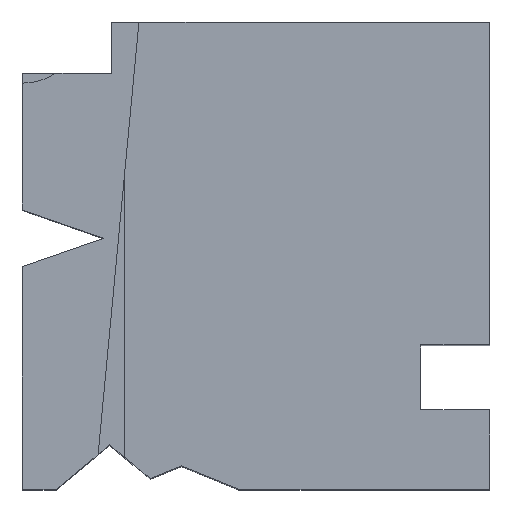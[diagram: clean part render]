
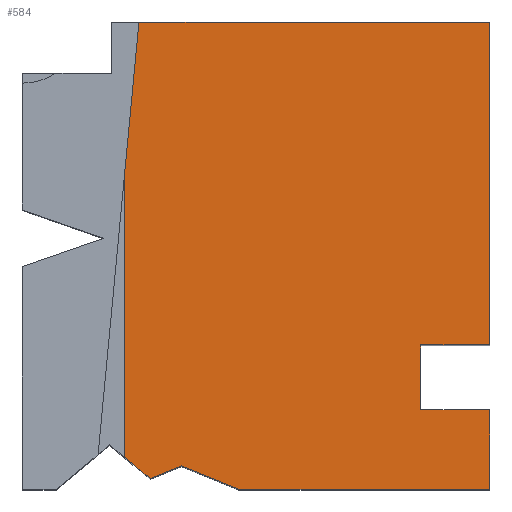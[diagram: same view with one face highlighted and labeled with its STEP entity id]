
A CAD part, top view. The second image highlights one B-rep face of the part: STEP entity #584.
In plain terms, the highlighted planar face has unit normal (0, 0, 1).
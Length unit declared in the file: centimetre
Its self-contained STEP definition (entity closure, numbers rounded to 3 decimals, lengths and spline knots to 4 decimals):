
#6 = CARTESIAN_POINT ( 'NONE',  ( 1000., 0., 1000. ) ) ;
#42 = VECTOR ( 'NONE', #788, 100. ) ;
#44 = EDGE_CURVE ( 'NONE', #755, #375, #891, .T. ) ;
#47 = EDGE_CURVE ( 'NONE', #956, #134, #877, .T. ) ;
#56 = VECTOR ( 'NONE', #702, 100. ) ;
#77 = EDGE_CURVE ( 'NONE', #118, #956, #113, .T. ) ;
#93 = DIRECTION ( 'NONE',  ( -0.926, -0.378, 0. ) ) ;
#112 = CARTESIAN_POINT ( 'NONE',  ( 217.9702, 667.4049, 1000. ) ) ;
#113 = LINE ( 'NONE', #1082, #690 ) ;
#118 = VERTEX_POINT ( 'NONE', #725 ) ;
#123 = EDGE_LOOP ( 'NONE', ( #557, #860, #358, #1021, #1072, #964, #865, #630, #1106, #676, #153, #1068 ) ) ;
#124 = VECTOR ( 'NONE', #571, 100. ) ;
#125 = DIRECTION ( 'NONE',  ( 0., 1., 0. ) ) ;
#134 = VERTEX_POINT ( 'NONE', #1087 ) ;
#149 = CARTESIAN_POINT ( 'NONE',  ( 852.5416, 169.668, 1000. ) ) ;
#153 = ORIENTED_EDGE ( 'NONE', *, *, #195, .T. ) ;
#162 = DIRECTION ( 'NONE',  ( 0.094, 0.996, 0. ) ) ;
#165 = VECTOR ( 'NONE', #844, 100. ) ;
#186 = VERTEX_POINT ( 'NONE', #388 ) ;
#195 = EDGE_CURVE ( 'NONE', #134, #263, #312, .T. ) ;
#201 = DIRECTION ( 'NONE',  ( 1., 0., 0. ) ) ;
#221 = CARTESIAN_POINT ( 'NONE',  ( 1000., 1000., 1000. ) ) ;
#246 = VERTEX_POINT ( 'NONE', #756 ) ;
#263 = VERTEX_POINT ( 'NONE', #1116 ) ;
#299 = FACE_OUTER_BOUND ( 'NONE', #123, .T. ) ;
#305 = LINE ( 'NONE', #654, #907 ) ;
#312 = LINE ( 'NONE', #221, #124 ) ;
#323 = LINE ( 'NONE', #660, #908 ) ;
#329 = VERTEX_POINT ( 'NONE', #6 ) ;
#337 = CARTESIAN_POINT ( 'NONE',  ( 249.3708, 1000., 1000. ) ) ;
#358 = ORIENTED_EDGE ( 'NONE', *, *, #895, .T. ) ;
#361 = CARTESIAN_POINT ( 'NONE',  ( 217.9702, 0., 1000. ) ) ;
#370 = EDGE_CURVE ( 'NONE', #425, #246, #305, .T. ) ;
#373 = DIRECTION ( 'NONE',  ( 0., 0., 1. ) ) ;
#375 = VERTEX_POINT ( 'NONE', #462 ) ;
#388 = CARTESIAN_POINT ( 'NONE',  ( 463.1951, 0., 1000. ) ) ;
#389 = CARTESIAN_POINT ( 'NONE',  ( 1000., 169.668, 1000. ) ) ;
#402 = VECTOR ( 'NONE', #93, 100. ) ;
#425 = VERTEX_POINT ( 'NONE', #112 ) ;
#450 = AXIS2_PLACEMENT_3D ( 'NONE', #643, #373, #201 ) ;
#462 = CARTESIAN_POINT ( 'NONE',  ( 273.6214, 22.6939, 1000. ) ) ;
#474 = EDGE_CURVE ( 'NONE', #329, #716, #852, .T. ) ;
#505 = EDGE_CURVE ( 'NONE', #186, #329, #793, .T. ) ;
#525 = LINE ( 'NONE', #791, #942 ) ;
#534 = VERTEX_POINT ( 'NONE', #708 ) ;
#553 = PLANE ( 'NONE',  #450 ) ;
#557 = ORIENTED_EDGE ( 'NONE', *, *, #1138, .F. ) ;
#571 = DIRECTION ( 'NONE',  ( 0., 1., 0. ) ) ;
#584 = ADVANCED_FACE ( 'NONE', ( #299 ), #553, .T. ) ;
#588 = LINE ( 'NONE', #149, #656 ) ;
#597 = VECTOR ( 'NONE', #162, 100. ) ;
#630 = ORIENTED_EDGE ( 'NONE', *, *, #1099, .T. ) ;
#643 = CARTESIAN_POINT ( 'NONE',  ( 0., 0., 1000. ) ) ;
#654 = CARTESIAN_POINT ( 'NONE',  ( 217.9702, 1000., 1000. ) ) ;
#656 = VECTOR ( 'NONE', #1140, 100. ) ;
#660 = CARTESIAN_POINT ( 'NONE',  ( 340.5827, 50., 1000. ) ) ;
#676 = ORIENTED_EDGE ( 'NONE', *, *, #47, .T. ) ;
#681 = CARTESIAN_POINT ( 'NONE',  ( 0., 0., 1000. ) ) ;
#690 = VECTOR ( 'NONE', #125, 100. ) ;
#702 = DIRECTION ( 'NONE',  ( 1., 0., 0. ) ) ;
#708 = CARTESIAN_POINT ( 'NONE',  ( 249.3708, 1000., 1000. ) ) ;
#710 = VECTOR ( 'NONE', #1048, 100. ) ;
#716 = VERTEX_POINT ( 'NONE', #389 ) ;
#725 = CARTESIAN_POINT ( 'NONE',  ( 852.5416, 169.668, 1000. ) ) ;
#755 = VERTEX_POINT ( 'NONE', #1015 ) ;
#756 = CARTESIAN_POINT ( 'NONE',  ( 217.9702, 69.0454, 1000. ) ) ;
#774 = CARTESIAN_POINT ( 'NONE',  ( 852.5416, 308.7023, 1000. ) ) ;
#788 = DIRECTION ( 'NONE',  ( -1., 0., 0. ) ) ;
#791 = CARTESIAN_POINT ( 'NONE',  ( 186.7532, 95.0458, 1000. ) ) ;
#793 = LINE ( 'NONE', #681, #710 ) ;
#830 = EDGE_CURVE ( 'NONE', #186, #755, #323, .T. ) ;
#844 = DIRECTION ( 'NONE',  ( 0., 1., 0. ) ) ;
#852 = LINE ( 'NONE', #1124, #165 ) ;
#860 = ORIENTED_EDGE ( 'NONE', *, *, #370, .T. ) ;
#862 = CARTESIAN_POINT ( 'NONE',  ( 852.5416, 308.7023, 1000. ) ) ;
#865 = ORIENTED_EDGE ( 'NONE', *, *, #474, .T. ) ;
#877 = LINE ( 'NONE', #774, #56 ) ;
#891 = LINE ( 'NONE', #361, #402 ) ;
#893 = DIRECTION ( 'NONE',  ( 0.768, -0.64, 0. ) ) ;
#895 = EDGE_CURVE ( 'NONE', #246, #375, #525, .T. ) ;
#907 = VECTOR ( 'NONE', #1012, 100. ) ;
#908 = VECTOR ( 'NONE', #935, 100. ) ;
#935 = DIRECTION ( 'NONE',  ( -0.926, 0.378, 0. ) ) ;
#942 = VECTOR ( 'NONE', #893, 100. ) ;
#956 = VERTEX_POINT ( 'NONE', #862 ) ;
#964 = ORIENTED_EDGE ( 'NONE', *, *, #505, .T. ) ;
#987 = EDGE_CURVE ( 'NONE', #263, #534, #1090, .T. ) ;
#1012 = DIRECTION ( 'NONE',  ( 0., -1., 0. ) ) ;
#1015 = CARTESIAN_POINT ( 'NONE',  ( 340.5827, 50., 1000. ) ) ;
#1021 = ORIENTED_EDGE ( 'NONE', *, *, #44, .F. ) ;
#1048 = DIRECTION ( 'NONE',  ( 1., 0., 0. ) ) ;
#1068 = ORIENTED_EDGE ( 'NONE', *, *, #987, .T. ) ;
#1072 = ORIENTED_EDGE ( 'NONE', *, *, #830, .F. ) ;
#1082 = CARTESIAN_POINT ( 'NONE',  ( 852.5416, 169.668, 1000. ) ) ;
#1087 = CARTESIAN_POINT ( 'NONE',  ( 1000., 308.7023, 1000. ) ) ;
#1090 = LINE ( 'NONE', #1123, #42 ) ;
#1099 = EDGE_CURVE ( 'NONE', #716, #118, #588, .T. ) ;
#1106 = ORIENTED_EDGE ( 'NONE', *, *, #77, .T. ) ;
#1116 = CARTESIAN_POINT ( 'NONE',  ( 1000., 1000., 1000. ) ) ;
#1117 = LINE ( 'NONE', #337, #597 ) ;
#1123 = CARTESIAN_POINT ( 'NONE',  ( 0., 1000., 1000. ) ) ;
#1124 = CARTESIAN_POINT ( 'NONE',  ( 1000., 1000., 1000. ) ) ;
#1138 = EDGE_CURVE ( 'NONE', #425, #534, #1117, .T. ) ;
#1140 = DIRECTION ( 'NONE',  ( -1., 0., 0. ) ) ;
